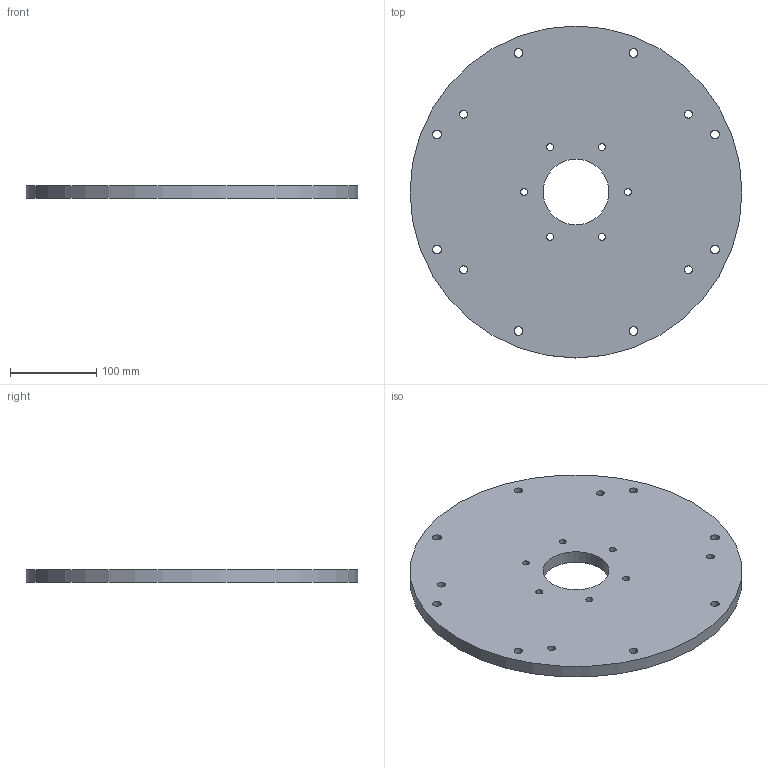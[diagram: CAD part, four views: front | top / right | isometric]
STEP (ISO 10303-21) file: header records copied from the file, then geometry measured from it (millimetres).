
FILE_DESCRIPTION(('Open CASCADE Model'),'2;1');
FILE_NAME('Open CASCADE Shape Model','2026-10-08T06:53:13',('Author'),( 'Open CASCADE'),'Open CASCADE STEP processor 7.8','Open CASCADE 7.8' ,'Unknown');
FILE_SCHEMA(('AUTOMOTIVE_DESIGN { 1 0 10303 214 1 1 1 1 }'));
Length unit declared in the file: millimetre
Products named in the file (1): Open CASCADE STEP translator 7.8 6
Bounding box: 384 x 384 x 15 mm (x, y, z)
Volume: 1651362.5 mm3; surface area: 249587 mm2
Topology: 1 solids, 1 shells, 22 faces, 60 edges, 40 vertices
Faces by surface type: cylinder 20, plane 2
Full cylindrical faces by diameter (mm): 8 x6, 9 x4, 10 x8, 76 x1, 384 x1
Entity records: 1704 total; most frequent: CARTESIAN_POINT 471, DIRECTION 228, ORIENTED_EDGE 120, PCURVE 120, DEFINITIONAL_REPRESENTATION 120, LINE 100, VECTOR 100, AXIS2_PLACEMENT_3D 63
